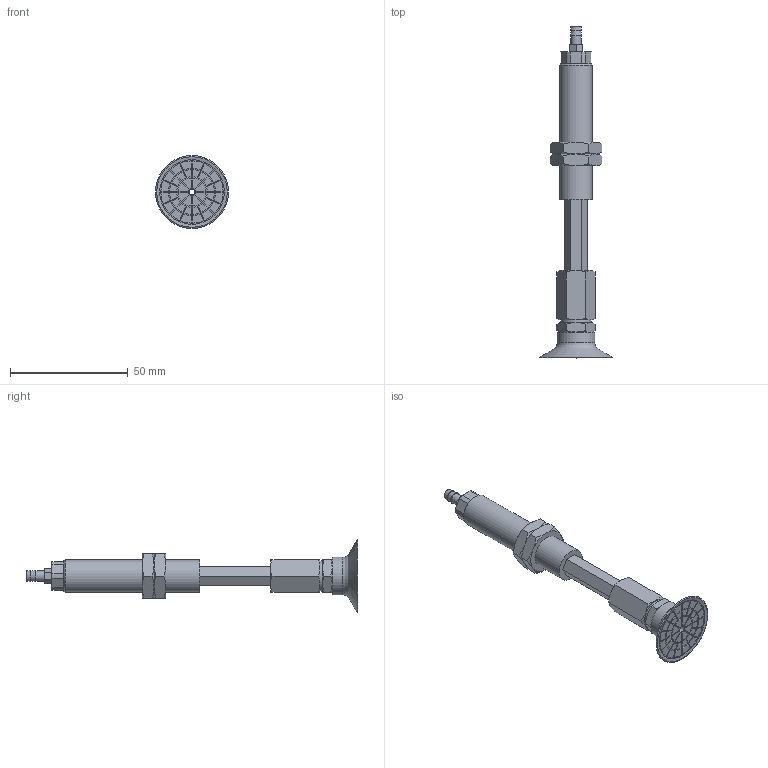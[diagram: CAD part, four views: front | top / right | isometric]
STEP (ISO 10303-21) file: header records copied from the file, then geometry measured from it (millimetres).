
FILE_DESCRIPTION(('STEP AP203'),'1');
FILE_NAME('-T.stp','2025-08-26T08:12:23',(' '),(' '),'Spatial InterOp 3D',' ',' ');
FILE_SCHEMA(('CONFIG_CONTROL_DESIGN'));
Length unit declared in the file: millimetre
Products named in the file (8): BNABPATH-30B-30-※-T; NAPATH-30-30--M; ADAPTER; Nut-25-S; NAPATH-30-30--F; TN-PA-30B-M6; BPAG-30B-※; T
Assembly tree (8 placements, depth 2):
  BNABPATH-30B-30-※-T
    NAPATH-30-30--M
    ADAPTER
    Nut-25-S  x2
    NAPATH-30-30--F
    TN-PA-30B-M6
    BPAG-30B-※
    T
Bounding box: 31.04 x 141.2 x 31.04 mm (x, y, z)
Volume: 19970.2 mm3; surface area: 15403.6 mm2
Topology: 8 solids, 8 shells, 376 faces, 876 edges, 561 vertices
Faces by surface type: plane 209, cylinder 98, cone 63, torus 6
Full cylindrical faces by diameter (mm): 2.5 x1, 3 x4, 4.134 x1, 4.3 x1, 4.917 x1, 5 x1, 6 x3, 10 x2, 12.917 x2, 13 x1, 14 x1, 16 x1, 27.5 x1
Entity records: 10503 total; most frequent: CARTESIAN_POINT 2056, DIRECTION 1705, ORIENTED_EDGE 1566, EDGE_CURVE 783, AXIS2_PLACEMENT_3D 632, VERTEX_POINT 527, EDGE_LOOP 450, LINE 441
